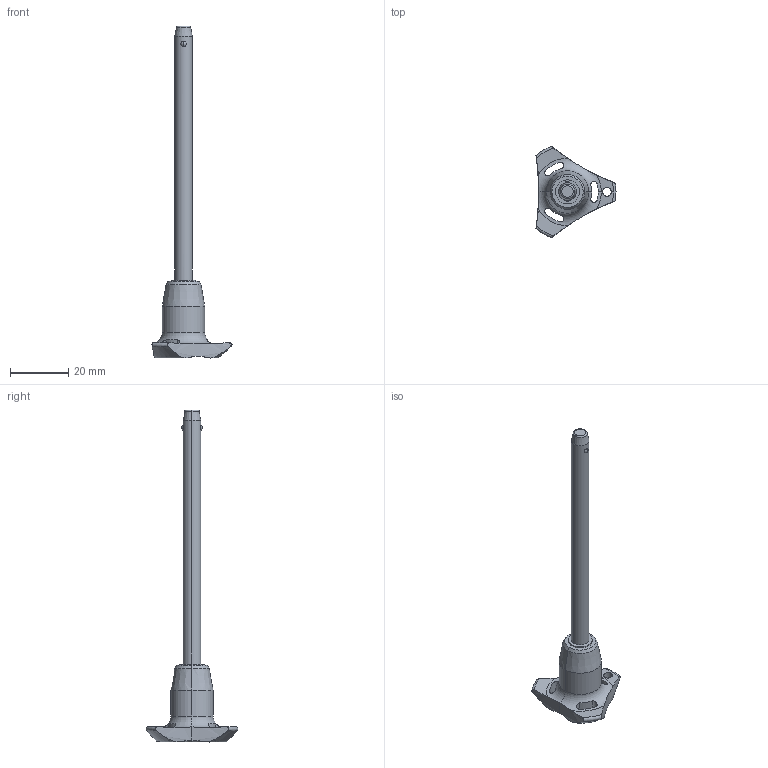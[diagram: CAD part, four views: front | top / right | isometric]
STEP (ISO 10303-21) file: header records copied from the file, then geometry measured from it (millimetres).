
FILE_DESCRIPTION (( 'STEP AP203' ), '1' );
FILE_NAME ('QR1734.M06-080-S.step', '2025-11-12T14:12:17', ( '' ), ( '' ), 'SwSTEP 2.0', 'SolidWorks 2019', '' );
FILE_SCHEMA (( 'CONFIG_CONTROL_DESIGN' ));
Length unit declared in the file: millimetre
Products named in the file (1): QR1734.M06-080-S
Bounding box: 27.4 x 31.31 x 113.7 mm (x, y, z)
Volume: 7228 mm3; surface area: 4060.8 mm2
Topology: 1 solids, 1 shells, 66 faces, 181 edges, 115 vertices
Faces by surface type: cylinder 30, cone 14, torus 12, sphere 6, plane 4
Entity records: 2709 total; most frequent: CARTESIAN_POINT 997, ORIENTED_EDGE 362, DIRECTION 332, EDGE_CURVE 181, AXIS2_PLACEMENT_3D 148, VERTEX_POINT 115, CIRCLE 81, EDGE_LOOP 72
